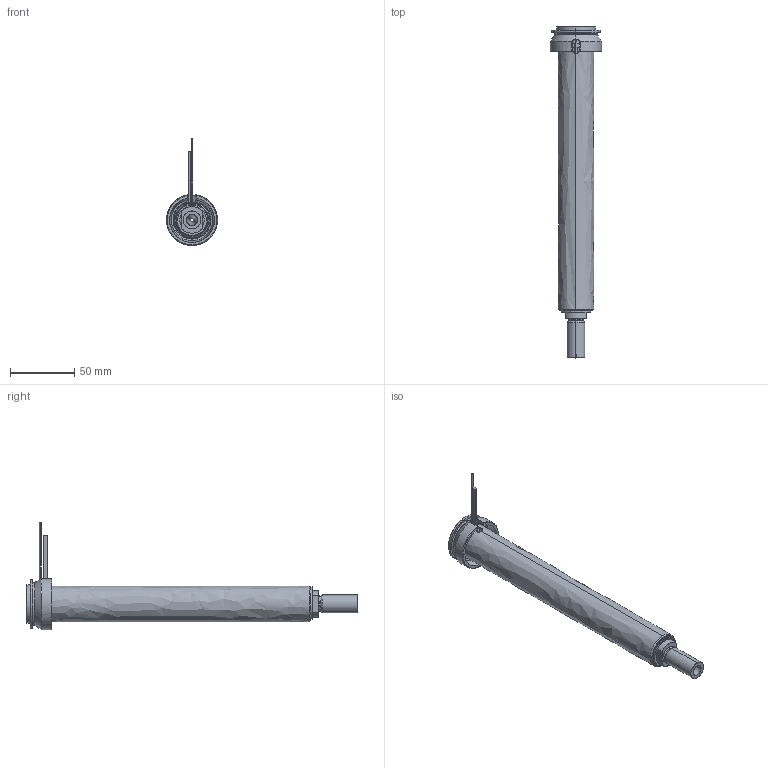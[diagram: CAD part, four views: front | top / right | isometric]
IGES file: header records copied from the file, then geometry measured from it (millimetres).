
Start section: SolidWorks IGES file using analytic representation for surfaces
Global section: file name: C:\Documents and Settings\ws-20\Desktop\TEMPORANEA\UGBE4005-M-A-P-5 [Ød-2.5 P-25 ØC-10].IGS; native system: SolidWorks 2012; preprocessor: SolidWorks 2012; author: ws-20; date: 120306.141236; units: millimetre
Bounding box: 40 x 259.25 x 83.65 mm (x, y, z)
Surface area: 70103.7 mm2 (no closed solid volume)
Topology: 0 solids, 0 shells, 105 faces, 1721 edges, 1721 vertices
Faces by surface type: revolution 60, bspline 45
